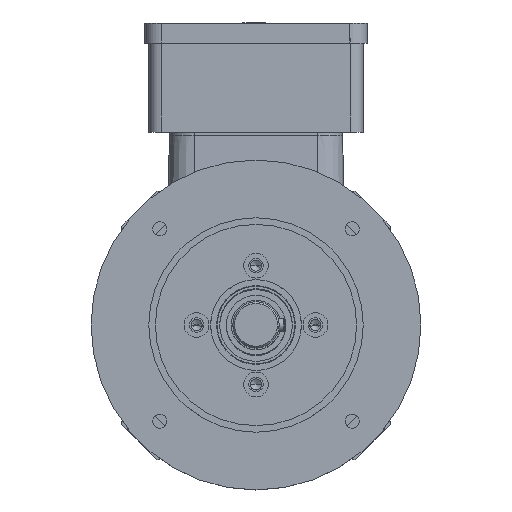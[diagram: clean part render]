
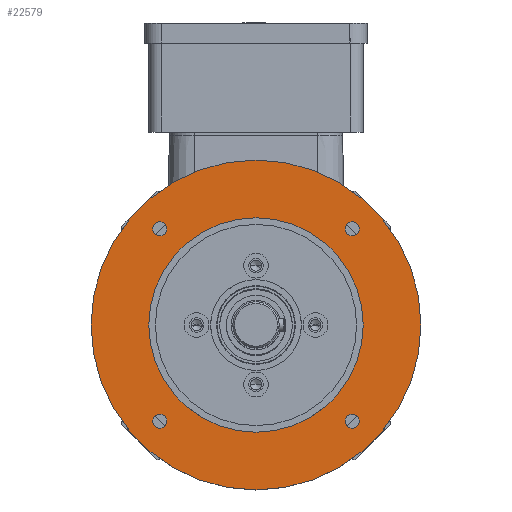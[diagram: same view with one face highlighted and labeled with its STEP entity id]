
A CAD part, top view. The second image highlights one B-rep face of the part: STEP entity #22579.
In plain terms, the highlighted planar face has unit normal (0, 0, 1).
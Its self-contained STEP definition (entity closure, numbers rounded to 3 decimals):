
#59 = CARTESIAN_POINT ( 'NONE',  ( -62.586, -58.336, 165. ) ) ;
#692 = ORIENTED_EDGE ( 'NONE', *, *, #50253, .T. ) ;
#1102 = CARTESIAN_POINT ( 'NONE',  ( 0., 65., 165. ) ) ;
#2845 = EDGE_CURVE ( 'NONE', #76216, #14035, #96480, .T. ) ;
#4502 = DIRECTION ( 'NONE',  ( 1., 0., 0. ) ) ;
#4662 = DIRECTION ( 'NONE',  ( 1., 0., 0. ) ) ;
#4825 = AXIS2_PLACEMENT_3D ( 'NONE', #18770, #90877, #100270 ) ;
#6949 = EDGE_CURVE ( 'NONE', #104448, #34326, #12748, .T. ) ;
#8141 = DIRECTION ( 'NONE',  ( 1., 0., 0. ) ) ;
#8216 = ORIENTED_EDGE ( 'NONE', *, *, #53185, .F. ) ;
#8774 = EDGE_CURVE ( 'NONE', #96376, #68515, #70984, .T. ) ;
#11856 = AXIS2_PLACEMENT_3D ( 'NONE', #42593, #68911, #78673 ) ;
#12748 = CIRCLE ( 'NONE', #91146, 100. ) ;
#14035 = VERTEX_POINT ( 'NONE', #77119 ) ;
#18770 = CARTESIAN_POINT ( 'NONE',  ( 58.336, -58.336, 165. ) ) ;
#19161 = ORIENTED_EDGE ( 'NONE', *, *, #34783, .F. ) ;
#22579 = ADVANCED_FACE ( 'NONE', ( #112818, #27238, #84680, #36948, #69343, #58067 ), #37893, .F. ) ;
#27238 = FACE_BOUND ( 'NONE', #115018, .T. ) ;
#29700 = CIRCLE ( 'NONE', #4825, 4.25 ) ;
#29909 = CARTESIAN_POINT ( 'NONE',  ( -54.086, 58.336, 165. ) ) ;
#30345 = CARTESIAN_POINT ( 'NONE',  ( 0., 0., 165. ) ) ;
#32175 = ORIENTED_EDGE ( 'NONE', *, *, #6949, .T. ) ;
#32907 = CARTESIAN_POINT ( 'NONE',  ( 65., 0., 165. ) ) ;
#33047 = CARTESIAN_POINT ( 'NONE',  ( -58.336, -58.336, 165. ) ) ;
#33934 = ORIENTED_EDGE ( 'NONE', *, *, #51286, .F. ) ;
#34115 = DIRECTION ( 'NONE',  ( 1., 0., 0. ) ) ;
#34326 = VERTEX_POINT ( 'NONE', #35985 ) ;
#34783 = EDGE_CURVE ( 'NONE', #102755, #78700, #107036, .T. ) ;
#34791 = DIRECTION ( 'NONE',  ( 0., 0., 1. ) ) ;
#35985 = CARTESIAN_POINT ( 'NONE',  ( -100., 0., 165. ) ) ;
#36453 = DIRECTION ( 'NONE',  ( 0., 0., 1. ) ) ;
#36928 = ORIENTED_EDGE ( 'NONE', *, *, #8774, .F. ) ;
#36948 = FACE_BOUND ( 'NONE', #114819, .T. ) ;
#37136 = DIRECTION ( 'NONE',  ( 0., 0., -1. ) ) ;
#37893 = PLANE ( 'NONE',  #108633 ) ;
#39049 = AXIS2_PLACEMENT_3D ( 'NONE', #33047, #58626, #67653 ) ;
#39979 = ORIENTED_EDGE ( 'NONE', *, *, #75901, .F. ) ;
#42571 = AXIS2_PLACEMENT_3D ( 'NONE', #85257, #59430, #4502 ) ;
#42593 = CARTESIAN_POINT ( 'NONE',  ( 58.336, 58.336, 165. ) ) ;
#45323 = AXIS2_PLACEMENT_3D ( 'NONE', #58422, #111359, #4662 ) ;
#45598 = DIRECTION ( 'NONE',  ( 0., 0., 1. ) ) ;
#47793 = CIRCLE ( 'NONE', #76163, 4.25 ) ;
#47888 = DIRECTION ( 'NONE',  ( 0., 0., 1. ) ) ;
#49273 = CARTESIAN_POINT ( 'NONE',  ( 54.086, 58.336, 165. ) ) ;
#49337 = DIRECTION ( 'NONE',  ( 1., 0., 0. ) ) ;
#50253 = EDGE_CURVE ( 'NONE', #34326, #104448, #79155, .T. ) ;
#50411 = ORIENTED_EDGE ( 'NONE', *, *, #56591, .F. ) ;
#51286 = EDGE_CURVE ( 'NONE', #14035, #76216, #29700, .T. ) ;
#53185 = EDGE_CURVE ( 'NONE', #77987, #67160, #80614, .T. ) ;
#54176 = CIRCLE ( 'NONE', #86565, 4.25 ) ;
#54232 = VERTEX_POINT ( 'NONE', #114280 ) ;
#54427 = DIRECTION ( 'NONE',  ( -1., 0., 0. ) ) ;
#55393 = CIRCLE ( 'NONE', #45323, 4.25 ) ;
#55759 = EDGE_CURVE ( 'NONE', #54232, #63061, #81737, .T. ) ;
#56591 = EDGE_CURVE ( 'NONE', #78700, #102755, #47793, .T. ) ;
#56848 = CIRCLE ( 'NONE', #76608, 65. ) ;
#58067 = FACE_OUTER_BOUND ( 'NONE', #86586, .T. ) ;
#58230 = ORIENTED_EDGE ( 'NONE', *, *, #55759, .F. ) ;
#58422 = CARTESIAN_POINT ( 'NONE',  ( -58.336, -58.336, 165. ) ) ;
#58626 = DIRECTION ( 'NONE',  ( 0., 0., 1. ) ) ;
#59430 = DIRECTION ( 'NONE',  ( 0., 0., 1. ) ) ;
#59693 = AXIS2_PLACEMENT_3D ( 'NONE', #69377, #34791, #8141 ) ;
#63061 = VERTEX_POINT ( 'NONE', #29909 ) ;
#64023 = EDGE_LOOP ( 'NONE', ( #33934, #65415 ) ) ;
#64500 = CARTESIAN_POINT ( 'NONE',  ( -54.086, -58.336, 165. ) ) ;
#64843 = EDGE_CURVE ( 'NONE', #68515, #96376, #56848, .T. ) ;
#65247 = DIRECTION ( 'NONE',  ( 0., 0., 1. ) ) ;
#65415 = ORIENTED_EDGE ( 'NONE', *, *, #2845, .F. ) ;
#67160 = VERTEX_POINT ( 'NONE', #64500 ) ;
#67653 = DIRECTION ( 'NONE',  ( 1., 0., 0. ) ) ;
#68305 = ORIENTED_EDGE ( 'NONE', *, *, #98191, .F. ) ;
#68515 = VERTEX_POINT ( 'NONE', #32907 ) ;
#68911 = DIRECTION ( 'NONE',  ( 0., 0., 1. ) ) ;
#69343 = FACE_BOUND ( 'NONE', #79348, .T. ) ;
#69377 = CARTESIAN_POINT ( 'NONE',  ( -58.336, 58.336, 165. ) ) ;
#70984 = CIRCLE ( 'NONE', #95340, 65. ) ;
#75901 = EDGE_CURVE ( 'NONE', #67160, #77987, #55393, .T. ) ;
#76163 = AXIS2_PLACEMENT_3D ( 'NONE', #88972, #78464, #34115 ) ;
#76216 = VERTEX_POINT ( 'NONE', #94981 ) ;
#76608 = AXIS2_PLACEMENT_3D ( 'NONE', #95237, #94047, #49337 ) ;
#77119 = CARTESIAN_POINT ( 'NONE',  ( 62.586, -58.336, 165. ) ) ;
#77415 = ORIENTED_EDGE ( 'NONE', *, *, #64843, .F. ) ;
#77987 = VERTEX_POINT ( 'NONE', #59 ) ;
#78464 = DIRECTION ( 'NONE',  ( 0., 0., 1. ) ) ;
#78673 = DIRECTION ( 'NONE',  ( 1., 0., 0. ) ) ;
#78700 = VERTEX_POINT ( 'NONE', #49273 ) ;
#79155 = CIRCLE ( 'NONE', #80542, 100. ) ;
#79269 = CARTESIAN_POINT ( 'NONE',  ( 62.586, 58.336, 165. ) ) ;
#79348 = EDGE_LOOP ( 'NONE', ( #77415, #36928 ) ) ;
#80542 = AXIS2_PLACEMENT_3D ( 'NONE', #90205, #36453, #108265 ) ;
#80614 = CIRCLE ( 'NONE', #39049, 4.25 ) ;
#81737 = CIRCLE ( 'NONE', #59693, 4.25 ) ;
#84025 = DIRECTION ( 'NONE',  ( 1., 0., 0. ) ) ;
#84680 = FACE_BOUND ( 'NONE', #64023, .T. ) ;
#85257 = CARTESIAN_POINT ( 'NONE',  ( 58.336, -58.336, 165. ) ) ;
#85467 = DIRECTION ( 'NONE',  ( 1., 0., 0. ) ) ;
#86565 = AXIS2_PLACEMENT_3D ( 'NONE', #101629, #47888, #110672 ) ;
#86586 = EDGE_LOOP ( 'NONE', ( #32175, #692 ) ) ;
#88972 = CARTESIAN_POINT ( 'NONE',  ( 58.336, 58.336, 165. ) ) ;
#90205 = CARTESIAN_POINT ( 'NONE',  ( 0., 0., 165. ) ) ;
#90877 = DIRECTION ( 'NONE',  ( 0., 0., 1. ) ) ;
#91146 = AXIS2_PLACEMENT_3D ( 'NONE', #99402, #45598, #85467 ) ;
#92091 = EDGE_LOOP ( 'NONE', ( #68305, #58230 ) ) ;
#94047 = DIRECTION ( 'NONE',  ( 0., 0., 1. ) ) ;
#94981 = CARTESIAN_POINT ( 'NONE',  ( 54.086, -58.336, 165. ) ) ;
#95237 = CARTESIAN_POINT ( 'NONE',  ( 0., 0., 165. ) ) ;
#95340 = AXIS2_PLACEMENT_3D ( 'NONE', #30345, #65247, #84025 ) ;
#96376 = VERTEX_POINT ( 'NONE', #106167 ) ;
#96480 = CIRCLE ( 'NONE', #42571, 4.25 ) ;
#98191 = EDGE_CURVE ( 'NONE', #63061, #54232, #54176, .T. ) ;
#99402 = CARTESIAN_POINT ( 'NONE',  ( 0., 0., 165. ) ) ;
#100270 = DIRECTION ( 'NONE',  ( 1., 0., 0. ) ) ;
#101629 = CARTESIAN_POINT ( 'NONE',  ( -58.336, 58.336, 165. ) ) ;
#102755 = VERTEX_POINT ( 'NONE', #79269 ) ;
#104448 = VERTEX_POINT ( 'NONE', #114156 ) ;
#106167 = CARTESIAN_POINT ( 'NONE',  ( -65., 0., 165. ) ) ;
#107036 = CIRCLE ( 'NONE', #11856, 4.25 ) ;
#108265 = DIRECTION ( 'NONE',  ( 1., 0., 0. ) ) ;
#108633 = AXIS2_PLACEMENT_3D ( 'NONE', #1102, #37136, #54427 ) ;
#110672 = DIRECTION ( 'NONE',  ( 1., 0., 0. ) ) ;
#111359 = DIRECTION ( 'NONE',  ( 0., 0., 1. ) ) ;
#112818 = FACE_BOUND ( 'NONE', #92091, .T. ) ;
#114156 = CARTESIAN_POINT ( 'NONE',  ( 100., 0., 165. ) ) ;
#114280 = CARTESIAN_POINT ( 'NONE',  ( -62.586, 58.336, 165. ) ) ;
#114819 = EDGE_LOOP ( 'NONE', ( #19161, #50411 ) ) ;
#115018 = EDGE_LOOP ( 'NONE', ( #39979, #8216 ) ) ;
